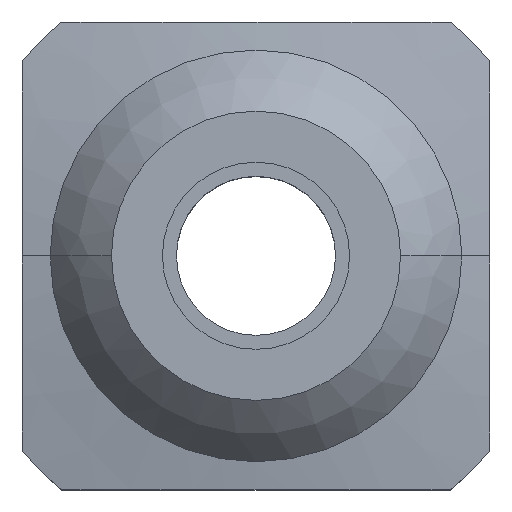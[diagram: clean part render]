
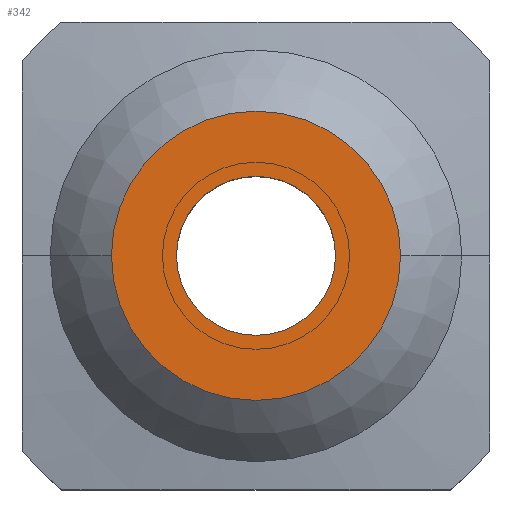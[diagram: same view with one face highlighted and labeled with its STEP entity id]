
A CAD part, top view. The second image highlights one B-rep face of the part: STEP entity #342.
In plain terms, the highlighted planar face has unit normal (0, 0, 1).
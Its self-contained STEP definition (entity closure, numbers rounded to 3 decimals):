
#1=CARTESIAN_POINT('',(0.,0.,7.5));
#2=DIRECTION('',(0.,0.,-1.));
#3=DIRECTION('',(1.,0.,0.));
#4=AXIS2_PLACEMENT_3D('',#1,#2,#3);
#6=CARTESIAN_POINT('',(0.,0.,7.5));
#7=DIRECTION('',(0.,0.,-1.));
#8=DIRECTION('',(-1.,0.,0.));
#9=AXIS2_PLACEMENT_3D('',#6,#7,#8);
#21=CARTESIAN_POINT('',(0.,0.,7.5));
#22=DIRECTION('',(0.,0.,-1.));
#23=DIRECTION('',(1.,0.,0.));
#24=AXIS2_PLACEMENT_3D('',#21,#22,#23);
#26=CARTESIAN_POINT('',(0.,0.,7.5));
#27=DIRECTION('',(0.,0.,1.));
#28=DIRECTION('',(1.,0.,0.));
#29=AXIS2_PLACEMENT_3D('',#26,#27,#28);
#309=CARTESIAN_POINT('',(6.182,0.,7.5));
#310=VERTEX_POINT('',#309);
#311=CARTESIAN_POINT('',(-6.182,0.,7.5));
#312=VERTEX_POINT('',#311);
#321=CARTESIAN_POINT('',(3.4,0.,7.5));
#322=CARTESIAN_POINT('',(-3.4,0.,7.5));
#323=VERTEX_POINT('',#321);
#324=VERTEX_POINT('',#322);
#325=CARTESIAN_POINT('',(0.,0.,7.5));
#326=DIRECTION('',(0.,0.,1.));
#327=DIRECTION('',(-1.,0.,0.));
#328=AXIS2_PLACEMENT_3D('',#325,#326,#327);
#329=PLANE('',#328);
#331=ORIENTED_EDGE('',*,*,#330,.T.);
#333=ORIENTED_EDGE('',*,*,#332,.F.);
#334=EDGE_LOOP('',(#331,#333));
#335=FACE_OUTER_BOUND('',#334,.F.);
#337=ORIENTED_EDGE('',*,*,#336,.F.);
#339=ORIENTED_EDGE('',*,*,#338,.F.);
#340=EDGE_LOOP('',(#337,#339));
#341=FACE_BOUND('',#340,.F.);
#342=ADVANCED_FACE('',(#335,#341),#329,.T.);
#5=CIRCLE('',#4,3.4);
#10=CIRCLE('',#9,3.4);
#25=CIRCLE('',#24,6.182);
#30=CIRCLE('',#29,6.182);
#330=EDGE_CURVE('',#310,#312,#25,.T.);
#332=EDGE_CURVE('',#310,#312,#30,.T.);
#336=EDGE_CURVE('',#323,#324,#5,.T.);
#338=EDGE_CURVE('',#324,#323,#10,.T.);
